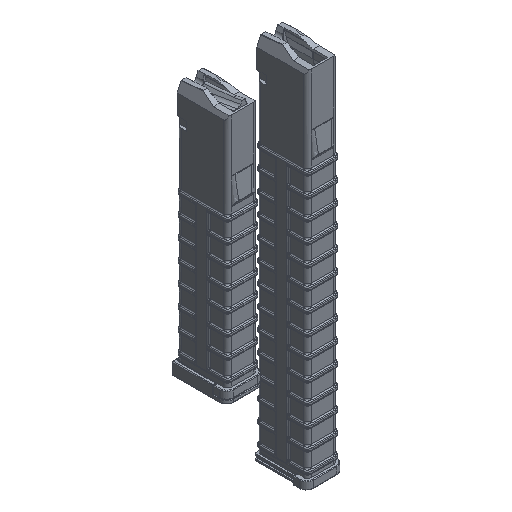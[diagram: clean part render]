
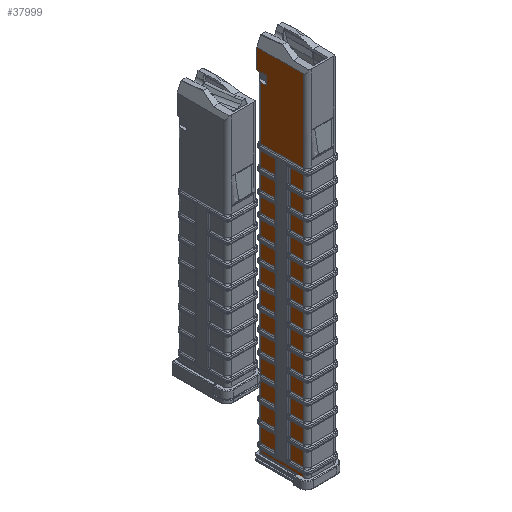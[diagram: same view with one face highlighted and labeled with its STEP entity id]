
A CAD part, isometric view. The second image highlights one B-rep face of the part: STEP entity #37999.
In plain terms, the highlighted planar face has unit normal (-1, 0, 0).
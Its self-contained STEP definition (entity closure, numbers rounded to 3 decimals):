
#5832=FACE_OUTER_BOUND('',#8350,.T.);
#8350=EDGE_LOOP('',(#34578,#34579,#34580,#34581,#34582,#34583,#34584,#34585,
#34586));
#11534=LINE('',#65968,#13826);
#11535=LINE('',#65998,#13827);
#11613=LINE('',#66236,#13905);
#11630=LINE('',#66345,#13922);
#11640=LINE('',#66364,#13932);
#11644=LINE('',#66373,#13936);
#11693=LINE('',#66552,#13985);
#12620=LINE('',#87702,#14912);
#12622=LINE('',#87706,#14914);
#13826=VECTOR('',#46123,10.);
#13827=VECTOR('',#46152,10.);
#13905=VECTOR('',#46392,10.);
#13922=VECTOR('',#46453,10.);
#13932=VECTOR('',#46469,10.);
#13936=VECTOR('',#46477,10.);
#13985=VECTOR('',#46650,10.);
#14912=VECTOR('',#51643,10.);
#14914=VECTOR('',#51649,10.);
#16426=VERTEX_POINT('',#65843);
#16487=VERTEX_POINT('',#65966);
#16501=VERTEX_POINT('',#65996);
#16502=VERTEX_POINT('',#65997);
#16561=VERTEX_POINT('',#66235);
#16586=VERTEX_POINT('',#66343);
#16587=VERTEX_POINT('',#66344);
#16593=VERTEX_POINT('',#66363);
#16635=VERTEX_POINT('',#66550);
#20529=EDGE_CURVE('',#16426,#16487,#11534,.T.);
#20543=EDGE_CURVE('',#16501,#16502,#11535,.T.);
#20654=EDGE_CURVE('',#16561,#16501,#11613,.T.);
#20689=EDGE_CURVE('',#16586,#16587,#11630,.T.);
#20699=EDGE_CURVE('',#16426,#16593,#11640,.T.);
#20704=EDGE_CURVE('',#16487,#16587,#11644,.T.);
#20784=EDGE_CURVE('',#16635,#16586,#11693,.T.);
#23611=EDGE_CURVE('',#16593,#16502,#12620,.T.);
#23613=EDGE_CURVE('',#16561,#16635,#12622,.T.);
#34578=ORIENTED_EDGE('',*,*,#20784,.F.);
#34579=ORIENTED_EDGE('',*,*,#23613,.F.);
#34580=ORIENTED_EDGE('',*,*,#20654,.T.);
#34581=ORIENTED_EDGE('',*,*,#20543,.T.);
#34582=ORIENTED_EDGE('',*,*,#23611,.F.);
#34583=ORIENTED_EDGE('',*,*,#20699,.F.);
#34584=ORIENTED_EDGE('',*,*,#20529,.T.);
#34585=ORIENTED_EDGE('',*,*,#20704,.T.);
#34586=ORIENTED_EDGE('',*,*,#20689,.F.);
#35631=PLANE('',#41902);
#37999=ADVANCED_FACE('',(#5832),#35631,.T.);
#41902=AXIS2_PLACEMENT_3D('',#87707,#51650,#51651);
#46123=DIRECTION('',(0.,0.,-1.));
#46152=DIRECTION('',(0.,-1.,0.));
#46392=DIRECTION('',(0.,-1.,0.));
#46453=DIRECTION('',(0.,0.,1.));
#46469=DIRECTION('',(0.,-1.,0.));
#46477=DIRECTION('',(0.,-1.,0.));
#46650=DIRECTION('',(0.,-1.,0.));
#51643=DIRECTION('',(0.,0.,-1.));
#51649=DIRECTION('',(0.,0.,1.));
#51650=DIRECTION('center_axis',(-1.,0.,0.));
#51651=DIRECTION('ref_axis',(0.,-1.,0.));
#65843=CARTESIAN_POINT('',(30.2,49.8,62.642));
#65966=CARTESIAN_POINT('',(30.2,49.8,47.708));
#65968=CARTESIAN_POINT('',(30.2,49.8,0.282));
#65996=CARTESIAN_POINT('',(30.2,19.227,-200.518));
#65997=CARTESIAN_POINT('',(30.2,14.7,-200.518));
#65998=CARTESIAN_POINT('',(30.2,40.375,-200.518));
#66235=CARTESIAN_POINT('',(30.2,46.8,-200.518));
#66236=CARTESIAN_POINT('',(30.2,40.375,-200.518));
#66343=CARTESIAN_POINT('',(30.2,42.636,41.108));
#66344=CARTESIAN_POINT('',(30.2,42.636,47.708));
#66345=CARTESIAN_POINT('',(30.2,42.636,20.845));
#66363=CARTESIAN_POINT('',(30.2,14.7,62.642));
#66364=CARTESIAN_POINT('',(30.2,30.85,62.642));
#66373=CARTESIAN_POINT('',(30.2,44.,47.708));
#66550=CARTESIAN_POINT('',(30.2,46.8,41.108));
#66552=CARTESIAN_POINT('',(30.2,40.189,41.108));
#87702=CARTESIAN_POINT('',(30.2,14.7,-109.518));
#87706=CARTESIAN_POINT('',(30.2,46.8,0.282));
#87707=CARTESIAN_POINT('Origin',(30.2,50.,0.282));
